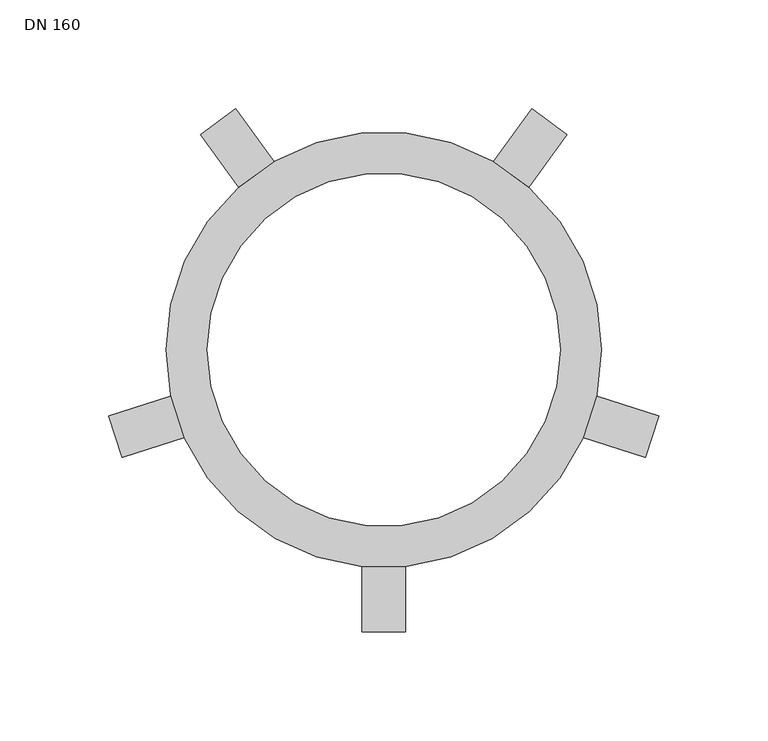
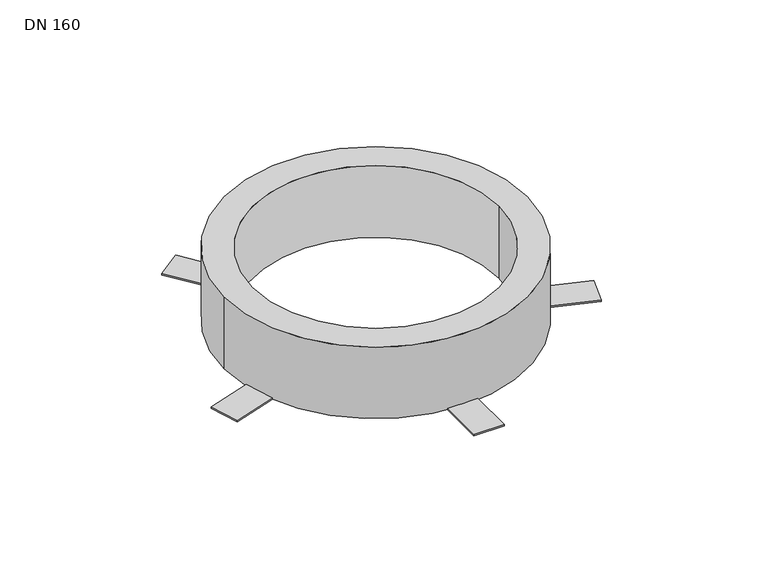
"""IFC4 building model written with IfcOpenShell, lengths in millimetres: proxy geometry, SE_AS+_Fire_Collar_For_Ceilings_Wavin : DN 160."""

from ifc_helpers import new_model, si_unit, point, origin, origin_with_axes, origin_2d, place, context, project, spatial, polyline, circle_curve, trimmed, segment, composite_curve, outline, extrude, source, transform, mapped, element, save


def dn_160_368857a8(model_context):
    return source(origin(), model_context, "Body", "SweptSolid", [
        extrude(outline(composite_curve([segment(polyline([(126.2519888, -30.5071356), (120.0716489, -49.5282659), (91.5387586, -40.2573679)]), True, "CONTINUOUS"), segment(trimmed(circle_curve(origin_2d(), 100.0), [point((91.5387586, -40.2573679))], [point((97.7190985, -21.2362376))], True, "CARTESIAN"), True, "CONTINUOUS"), segment(polyline([(97.7190985, -21.2362376), (126.2519888, -30.5071356)]), True, "CONTINUOUS")], self_intersect=False)), origin_with_axes(), (0.0, 0.0, 1.0), 1.0),
        extrude(outline(composite_curve([segment(polyline([(68.0280202, 110.6455533), (84.2083601, 98.8898482), (66.5740641, 74.6183221)]), True, "CONTINUOUS"), segment(trimmed(circle_curve(origin_2d(), 100.0), [point((66.5740641, 74.6183221))], [point((50.3937242, 86.3740271))], True, "CARTESIAN"), True, "CONTINUOUS"), segment(polyline([(50.3937242, 86.3740271), (68.0280202, 110.6455533)]), True, "CONTINUOUS")], self_intersect=False)), origin_with_axes(), (0.0, 0.0, 1.0), 1.0),
        extrude(outline(composite_curve([segment(polyline([(-84.2083601, 98.8898482), (-68.0280202, 110.6455533), (-50.3937242, 86.3740271)]), True, "CONTINUOUS"), segment(trimmed(circle_curve(origin_2d(), 100.0), [point((-50.3937242, 86.3740271))], [point((-66.5740641, 74.6183221))], True, "CARTESIAN"), True, "CONTINUOUS"), segment(polyline([(-66.5740641, 74.6183221), (-84.2083601, 98.8898482)]), True, "CONTINUOUS")], self_intersect=False)), origin_with_axes(), (0.0, 0.0, 1.0), 1.0),
        extrude(outline(composite_curve([segment(polyline([(-120.0716489, -49.5282659), (-126.2519888, -30.5071356), (-97.7190985, -21.2362376)]), True, "CONTINUOUS"), segment(trimmed(circle_curve(origin_2d(), 100.0), [point((-97.7190985, -21.2362376))], [point((-91.5387586, -40.2573679))], True, "CARTESIAN"), True, "CONTINUOUS"), segment(polyline([(-91.5387586, -40.2573679), (-120.0716489, -49.5282659)]), True, "CONTINUOUS")], self_intersect=False)), origin_with_axes(), (0.0, 0.0, 1.0), 1.0),
        extrude(outline(composite_curve([segment(polyline([(10.0, -129.5), (-10.0, -129.5), (-10.0, -99.4987437)]), True, "CONTINUOUS"), segment(trimmed(circle_curve(origin_2d(), 100.0), [point((-10.0, -99.4987437))], [point((10.0, -99.4987437))], True, "CARTESIAN"), True, "CONTINUOUS"), segment(polyline([(10.0, -99.4987437), (10.0, -129.5)]), True, "CONTINUOUS")], self_intersect=False)), origin_with_axes(), (0.0, 0.0, 1.0), 1.0),
        extrude(outline(composite_curve([segment(trimmed(circle_curve(origin_2d(), 100.0), [point((-100.0, 0.0))], [point((100.0, 0.0))], False, "CARTESIAN"), True, "CONTINUOUS"), segment(trimmed(circle_curve(origin_2d(), 100.0), [point((100.0, 0.0))], [point((-100.0, 0.0))], False, "CARTESIAN"), True, "CONTINUOUS")], self_intersect=False), holes=[composite_curve([segment(trimmed(circle_curve(origin_2d(), 81.1), [point((-81.1, 0.0))], [point((81.1, 0.0))], True, "CARTESIAN"), True, "CONTINUOUS"), segment(trimmed(circle_curve(origin_2d(), 81.1), [point((81.1, 0.0))], [point((-81.1, 0.0))], True, "CARTESIAN"), True, "CONTINUOUS")], self_intersect=False)]), origin_with_axes(), (0.0, 0.0, 1.0), 50.0),
    ])


if __name__ == "__main__":
    model = new_model("IFC4")
    model_context = context("Model", 3, world=origin())
    ifc_project = project(units=[si_unit("LENGTHUNIT", "METRE", prefix="MILLI")], contexts=[model_context])
    site = spatial("IfcSite", under=ifc_project)
    building = spatial("IfcBuilding", under=site)
    placement = place(None, origin())
    dn_160_shape = dn_160_368857a8(model_context)
    element("IfcBuildingElementProxy", 1, Name="SE_AS+_Fire_Collar_For_Ceilings_Wavin : DN 160", ObjectType="SE_AS+_Fire_Collar_For_Ceilings_Wavin : DN 160", at=placement, inside=building, context=model_context, shape_type="MappedRepresentation", body=[
        mapped(dn_160_shape, transform((0.0, 0.0, 0.0), x_axis=(1.0, 0.0, 0.0), y_axis=(0.0, 1.0, 0.0), z_axis=(0.0, 0.0, 1.0))),
    ])
    save(model, "model.ifc")
